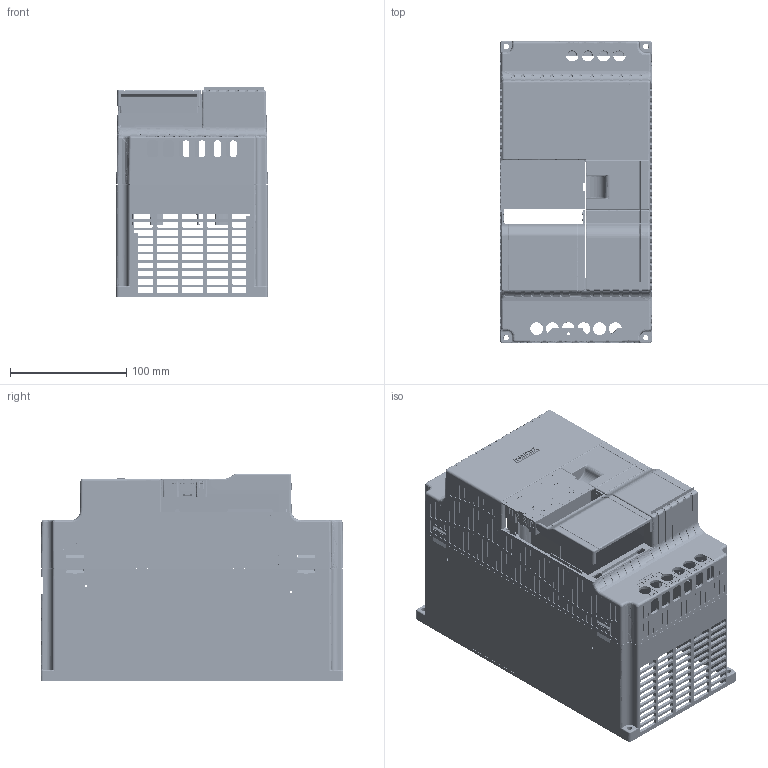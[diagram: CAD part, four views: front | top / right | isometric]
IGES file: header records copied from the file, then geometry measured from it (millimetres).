
Start section: SolidWorks IGES file using analytic representation for surfaces
Global section: file name: D:\X - Arquivos\PROEX\Empresas\P11 - METALTEX\Arquivo - Recebi por e-mail\3\3.2\IF20\IGES\z2000-7_5_11kw (S13).IGS; native system: SolidWorks 2012; preprocessor: SolidWorks 2012; author: Usuario; date: 190524.104212; units: millimetre
Bounding box: 130.03 x 260.03 x 181.08 mm (x, y, z)
Surface area: 389104.7 mm2 (no closed solid volume)
Topology: 0 solids, 0 shells, 5711 faces, 52103 edges, 52075 vertices
Faces by surface type: bspline 3977, revolution 1734
